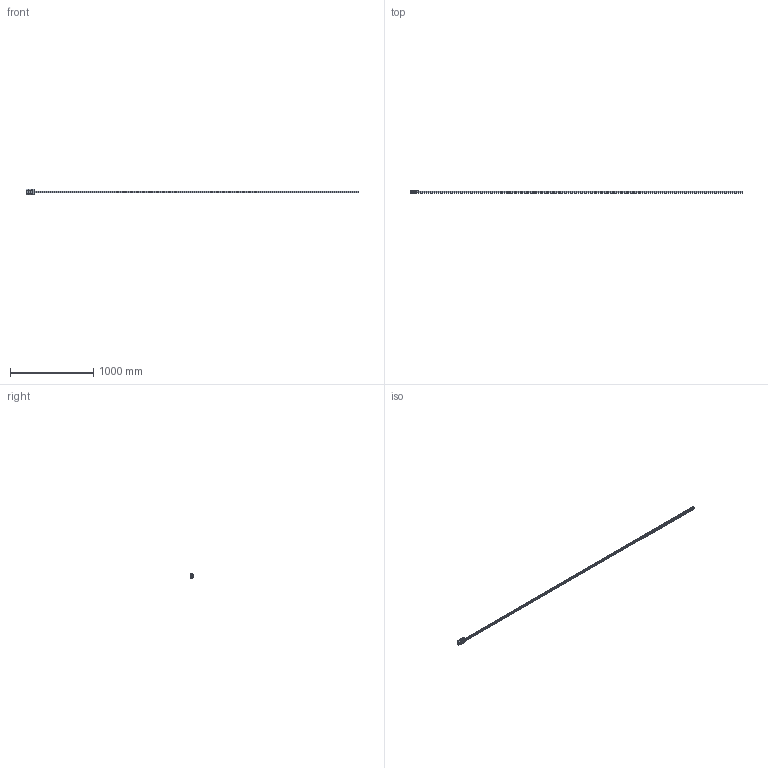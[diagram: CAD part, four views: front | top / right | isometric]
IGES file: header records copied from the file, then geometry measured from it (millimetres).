
Start section: Data from Parasolid IGES Translator 20.0.26, Copyright(c) 2006 Siemens P LM Software. All Rights Reserved.
Global section: file name: FDE20 84441T_4000-0.igs; native system: By Siemens PLM Incorporated; preprocessor: XPlus GENERIC/IGES 20.0.26; author: Noname; organization: Noname; date: 20220622.045304; units: millimetre
Bounding box: 4000 x 30 x 63 mm (x, y, z)
Surface area: 450782.3 mm2 (no closed solid volume)
Topology: 0 solids, 0 shells, 744 faces, 3792 edges, 3596 vertices
Faces by surface type: extrusion 381, revolution 363
